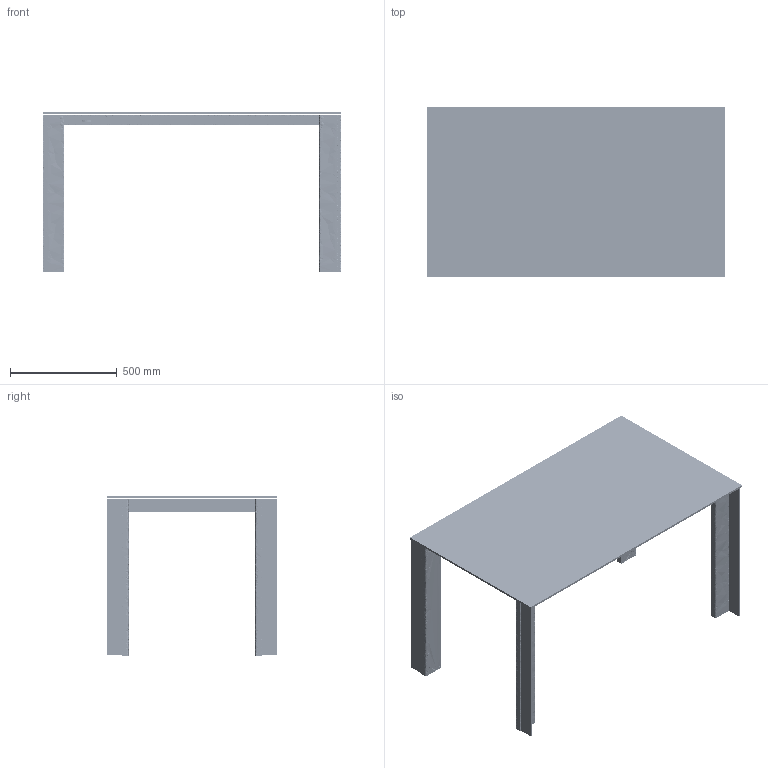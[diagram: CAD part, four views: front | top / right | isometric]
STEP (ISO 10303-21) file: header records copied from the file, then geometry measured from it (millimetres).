
FILE_DESCRIPTION(/* description */ (''),/* implementation_level */ '2;1');
FILE_NAME(/* name */ '10901 - Tale 140x80',/* time_stamp */ '2012-07-09T14:13:21+02:00',/* author */ (''),/* organization */ (''),/* preprocessor_version */ 'ST-DEVELOPER v10',/* originating_system */ '',/* authorisation */ '');
FILE_SCHEMA (('CONFIG_CONTROL_DESIGN'));
Length unit declared in the file: millimetre
Products named in the file (1): 1
Bounding box: 1400 x 800 x 748 mm (x, y, z)
Volume: 22021870.6 mm3; surface area: 7134403.7 mm2
Topology: 29 solids, 29 shells, 322 faces, 724 edges, 460 vertices
Faces by surface type: bspline 200, plane 122
Entity records: 21646 total; most frequent: CARTESIAN_POINT 16984, ORIENTED_EDGE 1416, EDGE_CURVE 708, VERTEX_POINT 460, EDGE_LOOP 414, B_SPLINE_CURVE_WITH_KNOTS 400, ADVANCED_FACE 322, FACE_OUTER_BOUND 322
